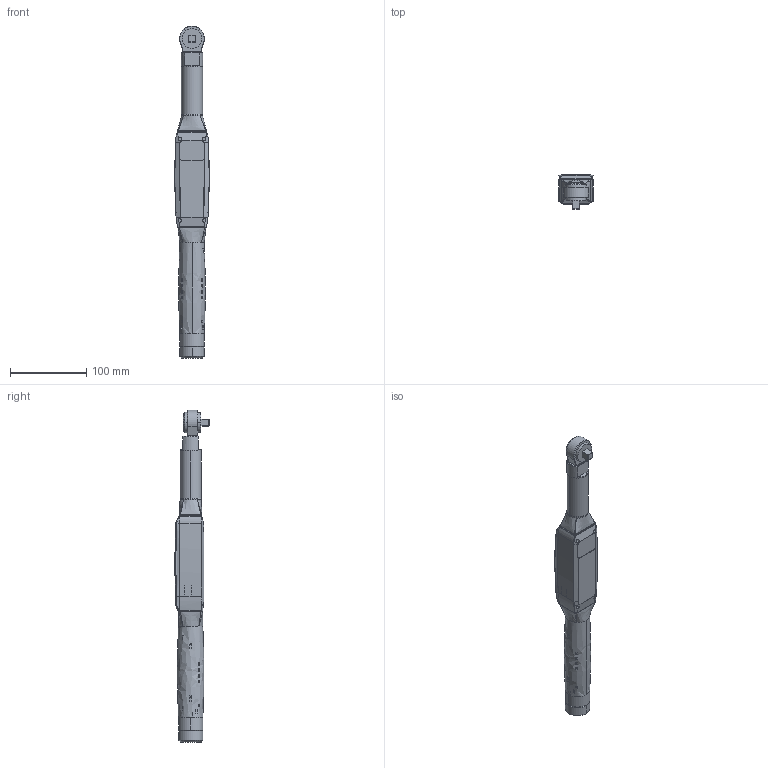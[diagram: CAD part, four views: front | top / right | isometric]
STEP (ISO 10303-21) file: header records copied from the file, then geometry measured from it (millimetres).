
FILE_DESCRIPTION((''),'2;1');
FILE_NAME('6159352100_DIM','2021-06-28T09:41:22',('S00000450'),(''),'CREO PARAMETRIC BY PTC INC, 2021072','CREO PARAMETRIC BY PTC INC, 2021072','');
FILE_SCHEMA(('AP242_MANAGED_MODEL_BASED_3D_ENGINEERING_MIM_LF { 1 0 10303 442 1 1 4 }'));
Length unit declared in the file: millimetre
Products named in the file (1): 6159352100_DIM
Bounding box: 45.16 x 45.45 x 436.8 mm (x, y, z)
Surface area: 55845.8 mm2 (no closed solid volume)
Topology: 0 solids, 52 shells, 279 faces, 857 edges, 599 vertices
Faces by surface type: bspline 110, cylinder 67, plane 66, cone 16, extrusion 10, torus 6, sphere 4
Entity records: 22935 total; most frequent: CARTESIAN_POINT 14791, ORIENTED_EDGE 1314, DIRECTION 1066, EDGE_CURVE 853, VERTEX_POINT 599, AXIS2_PLACEMENT_3D 398, B_SPLINE_CURVE_WITH_KNOTS 364, EDGE_LOOP 279
